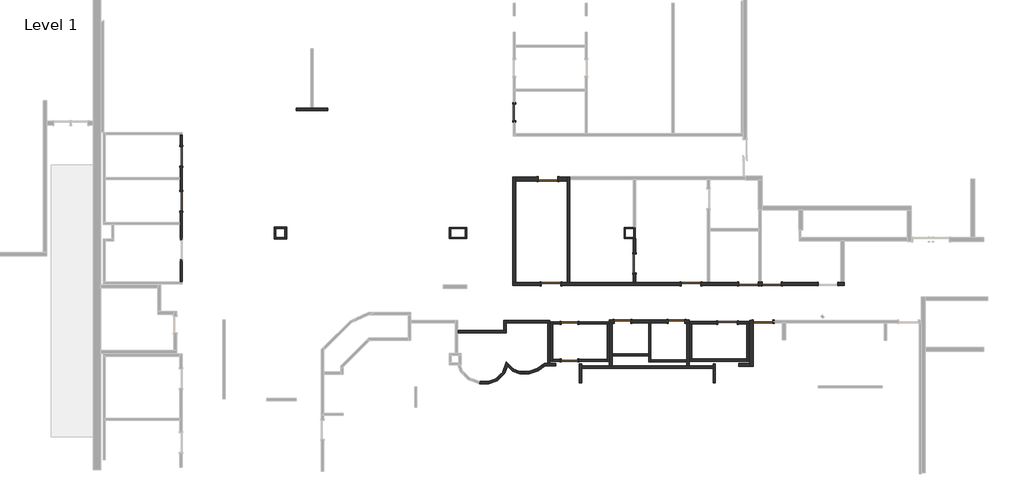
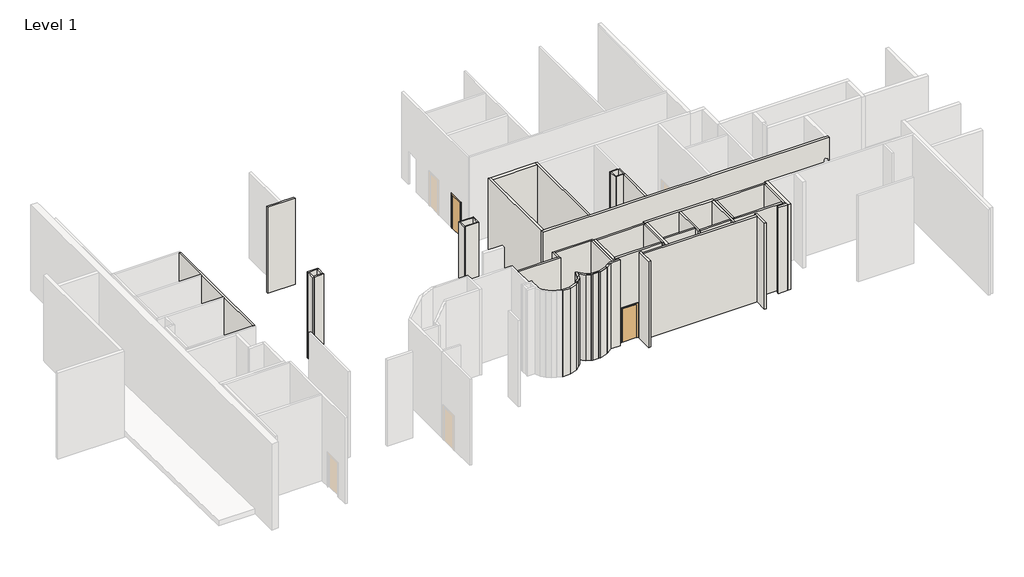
# One storey, part 5 of 10: 52 walls, 15 doors.
"""IFC4 building model written with IfcOpenShell, lengths in millimetres."""

from ifc_helpers import new_model, si_unit, frame, origin, origin_with_axes, place, context, project, spatial, polyline, outline, extrude, faceted_brep, transform, mapped, element, save
from components import door_32697e37, door_f8c0b9cb, door_b6e9fca3, door_99d96fc5, door_f5ce0651, door_5d800252, door_fe0b3fde, door_55d8558a, door_bcebd341, door_97d772aa

model = new_model("IFC4")

# Units and contexts
model_context = context("Model", 3, world=origin())
ifc_project = project(units=[si_unit("LENGTHUNIT", "METRE", prefix="MILLI")], contexts=[model_context])

# Site, building, storey
site = spatial("IfcSite", under=ifc_project)
building = spatial("IfcBuilding", under=site)
storey = spatial("IfcBuildingStorey", under=building, Name="Level 1", Elevation=0.0)

# Doors
placement = place(None, origin())
door_shape = door_32697e37(model_context)
element("IfcDoor", 1, ObjectType="Single-Flush : 34\" x 84\"", at=placement, inside=storey, context=model_context, shape_type="MappedRepresentation", body=[
    mapped(door_shape, transform((20964.3056816, 18816.1428472, 0.0), x_axis=(1.0, 0.0, 0.0), y_axis=(0.0, 1.0, 0.0), z_axis=(0.0, 0.0, 1.0))),
])
element("IfcDoor", 2, ObjectType="Single-Flush : 34\" x 84\"", at=placement, inside=storey, context=model_context, shape_type="MappedRepresentation", body=[
    mapped(door_shape, transform((20964.3056816, 20761.1478386, 0.0), x_axis=(-1.0, 0.0, 0.0), y_axis=(0.0, -1.0, 0.0), z_axis=(0.0, 0.0, 1.0))),
])
door_2_shape = door_f8c0b9cb(model_context)
element("IfcDoor", 3, ObjectType="Single-Flush : 34\" x 84\"", at=placement, inside=storey, context=model_context, shape_type="MappedRepresentation", body=[
    mapped(door_2_shape, transform((18087.213319, 31784.8822026, 0.0), x_axis=(0.0, 1.0, 0.0), y_axis=(-1.0, 0.0, 0.0), z_axis=(0.0, 0.0, 1.0))),
])
door_3_shape = door_b6e9fca3(model_context)
element("IfcDoor", 4, ObjectType="Single-Flush : 34\" x 84\"", at=placement, inside=storey, context=model_context, shape_type="MappedRepresentation", body=[
    mapped(door_3_shape, transform((26561.1724242, 20842.110354, 0.0), x_axis=(1.0, 0.0, 0.0), y_axis=(0.0, 1.0, 0.0), z_axis=(0.0, 0.0, 1.0))),
])
door_4_shape = door_99d96fc5(model_context)
element("IfcDoor", 5, ObjectType="Single-Flush : 34\" x 84\"", at=placement, inside=storey, context=model_context, shape_type="MappedRepresentation", body=[
    mapped(door_4_shape, transform((23744.9474275, 20842.110354, 0.0), x_axis=(-1.0, 0.0, 0.0), y_axis=(0.0, -1.0, 0.0), z_axis=(0.0, 0.0, 1.0))),
])
door_5_shape = door_f5ce0651(model_context)
element("IfcDoor", 6, ObjectType="Single-Flush : 36\" x 84\"", at=placement, inside=storey, context=model_context, shape_type="MappedRepresentation", body=[
    mapped(door_5_shape, transform((24373.5974216, 23877.4103474, 0.0), x_axis=(0.0, -1.0, 0.0), y_axis=(1.0, 0.0, 0.0), z_axis=(0.0, 0.0, 1.0))),
])
door_6_shape = door_5d800252(model_context)
element("IfcDoor", 7, ObjectType="Single-Flush : 36\" x 84\"", at=placement, inside=storey, context=model_context, shape_type="MappedRepresentation", body=[
    mapped(door_6_shape, transform((31544.450819, 22810.6103474, 0.0), x_axis=(-1.0, 0.0, 0.0), y_axis=(0.0, -1.0, 0.0), z_axis=(0.0, 0.0, 1.0))),
])
element("IfcDoor", 8, ObjectType="Single-Flush : 36\" x 84\"", at=placement, inside=storey, context=model_context, shape_type="MappedRepresentation", body=[
    mapped(door_6_shape, transform((27316.8224216, 22810.6103474, 0.0), x_axis=(1.0, 0.0, 0.0), y_axis=(0.0, 1.0, 0.0), z_axis=(0.0, 0.0, 1.0))),
])
element("IfcDoor", 9, ObjectType="Single-Flush : 36\" x 84\"", at=placement, inside=storey, context=model_context, shape_type="MappedRepresentation", body=[
    mapped(door_6_shape, transform((20001.6224216, 22810.6103474, 0.0), x_axis=(1.0, 0.0, 0.0), y_axis=(0.0, 1.0, 0.0), z_axis=(0.0, 0.0, 1.0))),
])
door_7_shape = door_fe0b3fde(model_context)
element("IfcDoor", 10, ObjectType="Single-Flush : 36\" x 84\"", at=placement, inside=storey, context=model_context, shape_type="MappedRepresentation", body=[
    mapped(door_7_shape, transform((30325.250819, 22810.6103474, 0.0), x_axis=(1.0, 0.0, 0.0), y_axis=(0.0, 1.0, 0.0), z_axis=(0.0, 0.0, 1.0))),
])
door_8_shape = door_55d8558a(model_context)
element("IfcDoor", 11, ObjectType="Single-Flush : 36\" x 84\"", at=placement, inside=storey, context=model_context, shape_type="MappedRepresentation", body=[
    mapped(door_8_shape, transform((31087.1349216, 20834.1732534, 0.0), x_axis=(-1.0, 0.0, 0.0), y_axis=(0.0, -1.0, 0.0), z_axis=(0.0, 0.0, 1.0))),
])
element("IfcDoor", 12, ObjectType="Single-Flush : 36\" x 84\"", at=placement, inside=storey, context=model_context, shape_type="MappedRepresentation", body=[
    mapped(door_8_shape, transform((29223.4099267, 20777.0228475, 0.0), x_axis=(1.0, 0.0, 0.0), y_axis=(0.0, 1.0, 0.0), z_axis=(0.0, 0.0, 1.0))),
])
door_9_shape = door_bcebd341(model_context)
element("IfcDoor", 13, ObjectType="Single-Flush : 36\" x 84\"", at=placement, inside=storey, context=model_context, shape_type="MappedRepresentation", body=[
    mapped(door_9_shape, transform((19849.2224216, 28299.6594625, 0.0), x_axis=(1.0, 0.0, 0.0), y_axis=(0.0, 1.0, 0.0), z_axis=(0.0, 0.0, 1.0))),
])
door_10_shape = door_97d772aa(model_context)
element("IfcDoor", 14, ObjectType="Single-Flush : 36\" x 84\"", at=placement, inside=storey, context=model_context, shape_type="MappedRepresentation", body=[
    mapped(door_10_shape, transform((660.5677298, 29494.7291991, 0.0), x_axis=(0.0, -1.0, 0.0), y_axis=(1.0, 0.0, 0.0), z_axis=(0.0, 0.0, 1.0))),
])
element("IfcDoor", 15, ObjectType="Single-Flush : 36\" x 84\"", at=placement, inside=storey, context=model_context, shape_type="MappedRepresentation", body=[
    mapped(door_10_shape, transform((660.5677298, 27140.1493749, 0.0), x_axis=(0.0, -1.0, 0.0), y_axis=(1.0, 0.0, 0.0), z_axis=(0.0, 0.0, 1.0))),
])

# Walls
element("IfcWall", 16, ObjectType="N2A/B", at=placement, inside=storey, context=model_context, shape_type="Brep", body=[
    faceted_brep([(24435.5099216, 22888.3978474, 0.0), (24435.5099216, 23369.4103474, 0.0), (24435.5099216, 23369.4103474, 2133.6), (24435.5099216, 24385.4103474, 2133.6), (24435.5099216, 24385.4103474, 0.0), (24435.5099216, 25186.5719628, 0.0), (24435.5099216, 25186.5719628, 5486.4), (24435.5099216, 22888.3978474, 5486.4), (24311.6849216, 23369.4103474, 2133.6), (24311.6849216, 23369.4103474, 0.0), (24311.6849216, 22888.3978474, 0.0), (24311.6849216, 22888.3978474, 5486.4), (24311.6849216, 25186.5719628, 5486.4), (24311.6849216, 25186.5719628, 0.0), (24311.6849216, 24385.4103474, 0.0), (24311.6849216, 24385.4103474, 2133.6), (24333.9099216, 25186.5719628, 0.0), (24333.9099216, 25186.5719628, 5486.4)], [[[0, 1, 2, 3, 4, 5, 6, 7]], [[8, 9, 10, 11, 12, 13, 14, 15]], [[10, 9, 1, 0]], [[14, 13, 16, 5, 4]], [[7, 6, 17, 12, 11]], [[0, 7, 11, 10]], [[6, 5, 16, 13, 12, 17]], [[2, 1, 9, 8]], [[3, 2, 8, 15]], [[4, 3, 15, 14]]]),
])
element("IfcWall", 17, ObjectType="N2A/B", at=placement, inside=storey, context=model_context, shape_type="Brep", body=[
    faceted_brep([(20854.1099216, 28407.6094625, 0.0), (20854.1099216, 28191.7094625, 0.0), (20854.1099216, 22888.3978474, 0.0), (20854.1099216, 22888.3978474, 5486.4), (20854.1099216, 28191.7094625, 5486.4), (20854.1099216, 28407.6094625, 5486.4), (20977.9349216, 28407.6094625, 0.0), (20977.9349216, 28407.6094625, 5486.4), (20977.9349216, 28262.085309, 5486.4), (20977.9349216, 22888.3978474, 5486.4), (20977.9349216, 22888.3978474, 0.0), (20977.9349216, 28262.085309, 0.0)], [[[0, 1, 2, 3, 4, 5]], [[6, 7, 8, 9, 10, 11]], [[2, 1, 0, 6, 11, 10]], [[5, 4, 3, 9, 8, 7]], [[0, 5, 7, 6]], [[3, 2, 10, 9]]]),
])
element("IfcWall", 18, ObjectType="N3A/B", at=placement, inside=storey, context=model_context, shape_type="Brep", body=[
    faceted_brep([(20509.6224216, 22732.8228474, 2133.6), (20509.6224216, 22732.8228474, 0.0), (26808.8224216, 22732.8228474, 0.0), (26808.8224216, 22732.8228474, 2133.6), (27824.8224216, 22732.8228474, 2133.6), (27824.8224216, 22732.8228474, 0.0), (29817.250819, 22732.8228474, 0.0), (29817.250819, 22732.8228474, 2133.6), (30833.250819, 22732.8228474, 2133.6), (30833.250819, 22732.8228474, 0.0), (31036.450819, 22732.8228474, 0.0), (31036.450819, 22732.8228474, 2133.6), (32052.450819, 22732.8228474, 2133.6), (32052.450819, 22732.8228474, 0.0), (33974.2419789, 22732.8228474, 0.0), (33974.2419789, 22732.8228474, 2133.6), (34990.2419789, 22732.8228474, 2133.6), (34990.2419789, 22732.8228474, 0.0), (35345.8419789, 22732.8228474, 0.0), (35345.8419789, 22732.8228474, 5486.4), (18009.425819, 22732.8228474, 5486.4), (18009.425819, 22732.8228474, 0.0), (19493.6224216, 22732.8228474, 0.0), (19493.6224216, 22732.8228474, 2133.6), (26808.8224216, 22888.3978474, 0.0), (24435.5099216, 22888.3978474, 0.0), (24311.6849216, 22888.3978474, 0.0), (20977.9349216, 22888.3978474, 0.0), (20854.1099216, 22888.3978474, 0.0), (20509.6224216, 22888.3978474, 0.0), (20509.6224216, 22888.3978474, 2133.6), (19493.6224216, 22888.3978474, 2133.6), (19493.6224216, 22888.3978474, 0.0), (18165.000819, 22888.3978474, 0.0), (18009.425819, 22888.3978474, 0.0), (18009.425819, 22888.3978474, 5486.4), (18165.000819, 22888.3978474, 5486.4), (20854.1099216, 22888.3978474, 5486.4), (20977.9349216, 22888.3978474, 5486.4), (24311.6849216, 22888.3978474, 5486.4), (24435.5099216, 22888.3978474, 5486.4), (28169.3099216, 22888.3978474, 5486.4), (28293.1349216, 22888.3978474, 5486.4), (30872.938319, 22888.3978474, 5486.4), (30996.763319, 22888.3978474, 5486.4), (35345.8419789, 22888.3978474, 5486.4), (35345.8419789, 22888.3978474, 0.0), (34990.2419789, 22888.3978474, 0.0), (34990.2419789, 22888.3978474, 2133.6), (33974.2419789, 22888.3978474, 2133.6), (33974.2419789, 22888.3978474, 0.0), (32052.450819, 22888.3978474, 0.0), (32052.450819, 22888.3978474, 2133.6), (31036.450819, 22888.3978474, 2133.6), (31036.450819, 22888.3978474, 0.0), (30996.763319, 22888.3978474, 0.0), (30872.938319, 22888.3978474, 0.0), (30833.250819, 22888.3978474, 0.0), (30833.250819, 22888.3978474, 2133.6), (29817.250819, 22888.3978474, 2133.6), (29817.250819, 22888.3978474, 0.0), (28293.1349216, 22888.3978474, 0.0), (28169.3099216, 22888.3978474, 0.0), (27824.8224216, 22888.3978474, 0.0), (27824.8224216, 22888.3978474, 2133.6), (26808.8224216, 22888.3978474, 2133.6)], [[[0, 1, 2, 3, 4, 5, 6, 7, 8, 9, 10, 11, 12, 13, 14, 15, 16, 17, 18, 19, 20, 21, 22, 23]], [[24, 25, 26, 27, 28, 29, 30, 31, 32, 33, 34, 35, 36, 37, 38, 39, 40, 41, 42, 43, 44, 45, 46, 47, 48, 49, 50, 51, 52, 53, 54, 55, 56, 57, 58, 59, 60, 61, 62, 63, 64, 65]], [[10, 9, 57, 56, 55, 54]], [[18, 17, 47, 46]], [[2, 1, 29, 28, 27, 26, 25, 24]], [[6, 5, 63, 62, 61, 60]], [[14, 13, 51, 50]], [[22, 21, 34, 33, 32]], [[20, 19, 45, 44, 43, 42, 41, 40, 39, 38, 37, 36, 35]], [[21, 20, 35, 34]], [[19, 18, 46, 45]], [[11, 10, 54, 53]], [[12, 11, 53, 52]], [[13, 12, 52, 51]], [[64, 63, 5, 4]], [[65, 64, 4, 3]], [[24, 65, 3, 2]], [[58, 57, 9, 8]], [[59, 58, 8, 7]], [[60, 59, 7, 6]], [[48, 47, 17, 16]], [[49, 48, 16, 15]], [[50, 49, 15, 14]], [[30, 29, 1, 0]], [[31, 30, 0, 23]], [[32, 31, 23, 22]]]),
])
element("IfcWall", 19, ObjectType="N3A/B", at=placement, inside=storey, context=model_context, shape_type="Brep", body=[
    faceted_brep([(18165.000819, 22888.3978474, 0.0), (18165.000819, 28191.7094625, 0.0), (18165.000819, 28407.6094625, 0.0), (18165.000819, 28407.6094625, 5486.4), (18165.000819, 28191.7094625, 5486.4), (18165.000819, 22888.3978474, 5486.4), (18009.425819, 22888.3978474, 0.0), (18009.425819, 22888.3978474, 5486.4), (18009.425819, 28407.6094625, 5486.4), (18009.425819, 28407.6094625, 0.0)], [[[0, 1, 2, 3, 4, 5]], [[6, 7, 8, 9]], [[2, 1, 0, 6, 9]], [[5, 4, 3, 8, 7]], [[3, 2, 9, 8]], [[0, 5, 7, 6]]]),
])
element("IfcWall", 20, ObjectType="F1A", at=placement, inside=storey, context=model_context, shape_type="Brep", body=[
    faceted_brep([(14693.0224216, 25763.3603474, 0.0), (14693.0224216, 25188.6853474, 0.0), (14693.0224216, 25188.6853474, 5486.4), (14693.0224216, 25763.3603474, 5486.4), (14750.1724216, 25763.3603474, 0.0), (14750.1724216, 25763.3603474, 5486.4), (14750.1724216, 25706.2103474, 5486.4), (14750.1724216, 25245.8353474, 5486.4), (14750.1724216, 25188.6853474, 5486.4), (14750.1724216, 25188.6853474, 0.0), (14750.1724216, 25245.8353474, 0.0), (14750.1724216, 25706.2103474, 0.0)], [[[0, 1, 2, 3]], [[4, 5, 6, 7, 8, 9, 10, 11]], [[1, 0, 4, 11, 10, 9]], [[3, 2, 8, 7, 6, 5]], [[2, 1, 9, 8]], [[0, 3, 5, 4]]]),
])
element("IfcWall", 21, ObjectType="F1A", at=placement, inside=storey, context=model_context, shape_type="Brep", body=[
    faceted_brep([(14750.1724216, 25188.6853474, 0.0), (15585.1974216, 25188.6853474, 0.0), (15585.1974216, 25188.6853474, 5486.4), (14750.1724216, 25188.6853474, 5486.4), (14750.1724216, 25245.8353474, 0.0), (14750.1724216, 25245.8353474, 5486.4), (15528.0474216, 25245.8353474, 5486.4), (15585.1974216, 25245.8353474, 5486.4), (15585.1974216, 25245.8353474, 0.0), (15528.0474216, 25245.8353474, 0.0)], [[[0, 1, 2, 3]], [[4, 5, 6, 7, 8, 9]], [[1, 0, 4, 9, 8]], [[3, 2, 7, 6, 5]], [[2, 1, 8, 7]], [[0, 3, 5, 4]]]),
])
element("IfcWall", 22, ObjectType="F1A", at=placement, inside=storey, context=model_context, shape_type="Brep", body=[
    faceted_brep([(15585.1974216, 25245.8353474, 0.0), (15585.1974216, 25763.3603474, 0.0), (15585.1974216, 25763.3603474, 5486.4), (15585.1974216, 25245.8353474, 5486.4), (15528.0474216, 25245.8353474, 0.0), (15528.0474216, 25245.8353474, 5486.4), (15528.0474216, 25706.2103474, 5486.4), (15528.0474216, 25763.3603474, 5486.4), (15528.0474216, 25763.3603474, 0.0), (15528.0474216, 25706.2103474, 0.0)], [[[0, 1, 2, 3]], [[4, 5, 6, 7, 8, 9]], [[1, 0, 4, 9, 8]], [[3, 2, 7, 6, 5]], [[2, 1, 8, 7]], [[0, 3, 5, 4]]]),
])
element("IfcWall", 23, ObjectType="F1A", at=placement, inside=storey, context=model_context, shape_type="SweptSolid", body=[
    extrude(outline(polyline([(14750.1724216, 25763.3603474), (15528.0474216, 25763.3603474), (15528.0474216, 25706.2103474), (14750.1724216, 25706.2103474), (14750.1724216, 25763.3603474)])), origin_with_axes(), (0.0, 0.0, 1.0), 5486.4),
])
element("IfcWall", 24, ObjectType="F1A", at=placement, inside=storey, context=model_context, shape_type="Brep", body=[
    faceted_brep([(24311.6849216, 25769.7103474, 0.0), (23836.4669789, 25769.7103474, 0.0), (23836.4669789, 25769.7103474, 5486.4), (24311.6849216, 25769.7103474, 5486.4), (24333.9099216, 25712.5603474, 0.0), (24333.9099216, 25712.5603474, 5486.4), (23893.6169789, 25712.5603474, 5486.4), (23836.4669789, 25712.5603474, 5486.4), (23836.4669789, 25712.5603474, 0.0), (23893.6169789, 25712.5603474, 0.0), (24311.6849216, 25741.1353474, 0.0), (24333.9099216, 25741.1353474, 0.0), (24333.9099216, 25741.1353474, 5486.4), (24311.6849216, 25741.1353474, 5486.4)], [[[0, 1, 2, 3]], [[4, 5, 6, 7, 8, 9]], [[1, 0, 10, 11, 4, 9, 8]], [[3, 2, 7, 6, 5, 12, 13]], [[2, 1, 8, 7]], [[0, 3, 13, 10]], [[13, 12, 11, 10]], [[12, 5, 4, 11]]]),
])
element("IfcWall", 25, ObjectType="F1A", at=placement, inside=storey, context=model_context, shape_type="Brep", body=[
    faceted_brep([(23836.4669789, 25712.5603474, 0.0), (23836.4669789, 25186.5719628, 0.0), (23836.4669789, 25186.5719628, 5486.4), (23836.4669789, 25712.5603474, 5486.4), (23893.6169789, 25712.5603474, 0.0), (23893.6169789, 25712.5603474, 5486.4), (23893.6169789, 25243.7219628, 5486.4), (23893.6169789, 25186.5719628, 5486.4), (23893.6169789, 25186.5719628, 0.0), (23893.6169789, 25243.7219628, 0.0)], [[[0, 1, 2, 3]], [[4, 5, 6, 7, 8, 9]], [[1, 0, 4, 9, 8]], [[3, 2, 7, 6, 5]], [[2, 1, 8, 7]], [[0, 3, 5, 4]]]),
])
element("IfcWall", 26, ObjectType="F1A", at=placement, inside=storey, context=model_context, shape_type="Brep", body=[
    faceted_brep([(23893.6169789, 25186.5719628, 0.0), (24311.6849216, 25186.5719628, 0.0), (24333.9099216, 25186.5719628, 0.0), (24333.9099216, 25186.5719628, 5486.4), (24311.6849216, 25186.5719628, 5486.4), (23893.6169789, 25186.5719628, 5486.4), (23893.6169789, 25243.7219628, 0.0), (23893.6169789, 25243.7219628, 5486.4), (24333.9099216, 25243.7219628, 5486.4), (24333.9099216, 25243.7219628, 0.0)], [[[0, 1, 2, 3, 4, 5]], [[6, 7, 8, 9]], [[2, 1, 0, 6, 9]], [[5, 4, 3, 8, 7]], [[0, 5, 7, 6]], [[3, 2, 9, 8]]]),
])
element("IfcWall", 27, ObjectType="F1B", at=placement, inside=storey, context=model_context, shape_type="Brep", body=[
    faceted_brep([(6190.372422, 25780.8228474, 0.0), (5537.9099216, 25780.8228474, 0.0), (5537.9099216, 25780.8228474, 5486.4), (6190.372422, 25780.8228474, 5486.4), (6190.372422, 25701.4478474, 0.0), (6190.372422, 25701.4478474, 5486.4), (6082.422422, 25701.4478474, 5486.4), (5617.2849216, 25701.4478474, 5486.4), (5537.9099216, 25701.4478474, 5486.4), (5537.9099216, 25701.4478474, 0.0), (5617.2849216, 25701.4478474, 0.0), (6082.422422, 25701.4478474, 0.0)], [[[0, 1, 2, 3]], [[4, 5, 6, 7, 8, 9, 10, 11]], [[1, 0, 4, 11, 10, 9]], [[3, 2, 8, 7, 6, 5]], [[2, 1, 9, 8]], [[0, 3, 5, 4]]]),
])
element("IfcWall", 28, ObjectType="F1B", at=placement, inside=storey, context=model_context, shape_type="Brep", body=[
    faceted_brep([(5537.9099216, 25701.4478474, 0.0), (5537.9099216, 25171.2228474, 0.0), (5537.9099216, 25171.2228474, 5486.4), (5537.9099216, 25701.4478474, 5486.4), (5617.2849216, 25701.4478474, 0.0), (5617.2849216, 25701.4478474, 5486.4), (5617.2849216, 25250.5978474, 5486.4), (5617.2849216, 25171.2228474, 5486.4), (5617.2849216, 25171.2228474, 0.0), (5617.2849216, 25250.5978474, 0.0)], [[[0, 1, 2, 3]], [[4, 5, 6, 7, 8, 9]], [[1, 0, 4, 9, 8]], [[3, 2, 7, 6, 5]], [[2, 1, 8, 7]], [[0, 3, 5, 4]]]),
])
element("IfcWall", 29, ObjectType="F1B", at=placement, inside=storey, context=model_context, shape_type="Brep", body=[
    faceted_brep([(5617.2849216, 25171.2228474, 0.0), (6190.372422, 25171.2228474, 0.0), (6190.372422, 25171.2228474, 5486.4), (5617.2849216, 25171.2228474, 5486.4), (5617.2849216, 25250.5978474, 0.0), (5617.2849216, 25250.5978474, 5486.4), (6082.422422, 25250.5978474, 5486.4), (6190.372422, 25250.5978474, 5486.4), (6190.372422, 25250.5978474, 0.0), (6082.422422, 25250.5978474, 0.0)], [[[0, 1, 2, 3]], [[4, 5, 6, 7, 8, 9]], [[1, 0, 4, 9, 8]], [[3, 2, 7, 6, 5]], [[2, 1, 8, 7]], [[0, 3, 5, 4]]]),
])
element("IfcWall", 30, ObjectType="F1B", at=placement, inside=storey, context=model_context, shape_type="Brep", body=[
    faceted_brep([(24333.9099216, 25741.1353474, 0.0), (24333.9099216, 25712.5603474, 0.0), (24333.9099216, 25243.7219628, 0.0), (24333.9099216, 25186.5719628, 0.0), (24333.9099216, 25172.8103474, 0.0), (24333.9099216, 25172.8103474, 5486.4), (24333.9099216, 25186.5719628, 5486.4), (24333.9099216, 25243.7219628, 5486.4), (24333.9099216, 25712.5603474, 5486.4), (24333.9099216, 25741.1353474, 5486.4), (24413.2849216, 25741.1353474, 0.0), (24413.2849216, 25741.1353474, 5486.4), (24413.2849216, 25172.8103474, 5486.4), (24413.2849216, 25172.8103474, 0.0)], [[[0, 1, 2, 3, 4, 5, 6, 7, 8, 9]], [[10, 11, 12, 13]], [[4, 3, 2, 1, 0, 10, 13]], [[5, 4, 13, 12]], [[9, 8, 7, 6, 5, 12, 11]], [[0, 9, 11, 10]]]),
])
element("IfcWall", 31, ObjectType="F1C", at=placement, inside=storey, context=model_context, shape_type="Brep", body=[
    faceted_brep([(20103.8806816, 18762.1678472, 0.0), (20103.8806816, 18870.1178472, 0.0), (20103.8806816, 20707.1728386, 0.0), (20103.8806816, 20815.1228386, 0.0), (20103.8806816, 20815.1228386, 5486.4), (20103.8806816, 20707.1728386, 5486.4), (20103.8806816, 18870.1178472, 5486.4), (20103.8806816, 18762.1678472, 5486.4), (19995.9306816, 18762.1678472, 0.0), (19995.9306816, 18762.1678472, 5486.4), (19995.9306816, 20815.1228386, 5486.4), (19995.9306816, 20815.1228386, 0.0)], [[[0, 1, 2, 3, 4, 5, 6, 7]], [[8, 9, 10, 11]], [[3, 2, 1, 0, 8, 11]], [[7, 6, 5, 4, 10, 9]], [[4, 3, 11, 10]], [[0, 7, 9, 8]]]),
])
element("IfcWall", 32, ObjectType="F1C", at=placement, inside=storey, context=model_context, shape_type="Brep", body=[
    faceted_brep([(20103.8806816, 20707.1728386, 0.0), (20532.5056816, 20707.1728386, 0.0), (20532.5056816, 20707.1728386, 2133.6), (21396.1056816, 20707.1728386, 2133.6), (21396.1056816, 20707.1728386, 0.0), (22944.3828016, 20707.1728386, 0.0), (23052.3328016, 20707.1728386, 0.0), (23052.3328016, 20707.1728386, 5486.4), (22944.3828016, 20707.1728386, 5486.4), (20103.8806816, 20707.1728386, 5486.4), (20532.5056816, 20815.1228386, 2133.6), (20532.5056816, 20815.1228386, 0.0), (20103.8806816, 20815.1228386, 0.0), (20103.8806816, 20815.1228386, 5486.4), (23052.3328016, 20815.1228386, 5486.4), (23052.3328016, 20815.1228386, 0.0), (21396.1056816, 20815.1228386, 0.0), (21396.1056816, 20815.1228386, 2133.6)], [[[0, 1, 2, 3, 4, 5, 6, 7, 8, 9]], [[10, 11, 12, 13, 14, 15, 16, 17]], [[12, 11, 1, 0]], [[16, 15, 6, 5, 4]], [[9, 8, 7, 14, 13]], [[7, 6, 15, 14]], [[0, 9, 13, 12]], [[2, 1, 11, 10]], [[3, 2, 10, 17]], [[4, 3, 17, 16]]]),
])
element("IfcWall", 33, ObjectType="F1C", at=placement, inside=storey, context=model_context, shape_type="Brep", body=[
    faceted_brep([(22944.3828016, 20707.1728386, 0.0), (22944.3828016, 18870.1178472, 0.0), (22944.3828016, 18762.1678472, 0.0), (22944.3828016, 18762.1678472, 5486.4), (22944.3828016, 18870.1178472, 5486.4), (22944.3828016, 20707.1728386, 5486.4), (23052.3328016, 20707.1728386, 0.0), (23052.3328016, 20707.1728386, 5486.4), (23052.3328016, 18762.1678472, 5486.4), (23052.3328016, 18762.1678472, 0.0)], [[[0, 1, 2, 3, 4, 5]], [[6, 7, 8, 9]], [[2, 1, 0, 6, 9]], [[5, 4, 3, 8, 7]], [[3, 2, 9, 8]], [[0, 5, 7, 6]]]),
])
element("IfcWall", 34, ObjectType="F1C", at=placement, inside=storey, context=model_context, shape_type="SweptSolid", body=[
    extrude(outline(polyline([(2133.6, 21396.1056816), (0.0, 21396.1056816), (0.0, 22944.3828016), (5486.4, 22944.3828016), (5486.4, 20103.8806816), (0.0, 20103.8806816), (0.0, 20532.5056816), (2133.6, 20532.5056816), (2133.6, 21396.1056816)])), frame((0.0, 18762.1678472, 0.0), z_axis=(0.0, 1.0, 0.0), x_axis=(0.0, 0.0, 1.0)), (0.0, 0.0, 1.0), 107.95),
])
element("IfcWall", 35, ObjectType="F1C", at=placement, inside=storey, context=model_context, shape_type="Brep", body=[
    faceted_brep([(606.5927298, 24083.2594628, 2133.6), (606.5927298, 24083.2594628, 0.0), (606.5927298, 22915.4941112, 0.0), (606.5927298, 22915.4941112, 5486.4), (606.5927298, 25908.8844628, 5486.4), (606.5927298, 26016.8344628, 5486.4), (606.5927298, 28263.464287, 5486.4), (606.5927298, 28371.414287, 5486.4), (606.5927298, 30618.0441112, 5486.4), (606.5927298, 30618.0441112, 0.0), (606.5927298, 30002.7291991, 0.0), (606.5927298, 30002.7291991, 2133.6), (606.5927298, 28986.7291991, 2133.6), (606.5927298, 28986.7291991, 0.0), (606.5927298, 28371.414287, 0.0), (606.5927298, 28263.464287, 0.0), (606.5927298, 27648.1493749, 0.0), (606.5927298, 27648.1493749, 2133.6), (606.5927298, 26632.1493749, 2133.6), (606.5927298, 26632.1493749, 0.0), (606.5927298, 26016.8344628, 0.0), (606.5927298, 25908.8844628, 0.0), (606.5927298, 25099.2594628, 0.0), (606.5927298, 25099.2594628, 2133.6), (714.5427298, 22915.4941112, 0.0), (714.5427298, 24083.2594628, 0.0), (714.5427298, 24083.2594628, 2133.6), (714.5427298, 25099.2594628, 2133.6), (714.5427298, 25099.2594628, 0.0), (714.5427298, 26632.1493749, 0.0), (714.5427298, 26632.1493749, 2133.6), (714.5427298, 27648.1493749, 2133.6), (714.5427298, 27648.1493749, 0.0), (714.5427298, 28986.7291991, 0.0), (714.5427298, 28986.7291991, 2133.6), (714.5427298, 30002.7291991, 2133.6), (714.5427298, 30002.7291991, 0.0), (714.5427298, 30618.0441112, 0.0), (714.5427298, 30618.0441112, 5486.4), (714.5427298, 22915.4941112, 5486.4)], [[[0, 1, 2, 3, 4, 5, 6, 7, 8, 9, 10, 11, 12, 13, 14, 15, 16, 17, 18, 19, 20, 21, 22, 23]], [[24, 25, 26, 27, 28, 29, 30, 31, 32, 33, 34, 35, 36, 37, 38, 39]], [[2, 1, 25, 24]], [[10, 9, 37, 36]], [[16, 15, 14, 13, 33, 32]], [[22, 21, 20, 19, 29, 28]], [[8, 7, 6, 5, 4, 3, 39, 38]], [[3, 2, 24, 39]], [[9, 8, 38, 37]], [[34, 33, 13, 12]], [[35, 34, 12, 11]], [[36, 35, 11, 10]], [[30, 29, 19, 18]], [[31, 30, 18, 17]], [[32, 31, 17, 16]], [[26, 25, 1, 0]], [[27, 26, 0, 23]], [[28, 27, 23, 22]]]),
])
element("IfcWall", 36, ObjectType="F1C", at=placement, inside=storey, context=model_context, shape_type="SweptSolid", body=[
    extrude(outline(polyline([(6082.422422, 25250.5978474), (6082.422422, 25701.4478474), (6190.372422, 25701.4478474), (6190.372422, 25250.5978474), (6082.422422, 25250.5978474)])), origin_with_axes(), (0.0, 0.0, 1.0), 5486.4),
])
element("IfcWall", 37, ObjectType="F4A", at=placement, inside=storey, context=model_context, shape_type="Brep", body=[
    faceted_brep([(15118.463178, 20242.0353386, 0.0), (17658.463178, 20242.0353386, 0.0), (17658.463178, 20242.0353386, 5486.4), (15118.463178, 20242.0353386, 5486.4), (15118.463178, 20365.8603386, 0.0), (15118.463178, 20365.8603386, 5486.4), (17534.638178, 20365.8603386, 5486.4), (17658.463178, 20365.8603386, 5486.4), (17658.463178, 20365.8603386, 0.0), (17534.638178, 20365.8603386, 0.0)], [[[0, 1, 2, 3]], [[4, 5, 6, 7, 8, 9]], [[1, 0, 4, 9, 8]], [[3, 2, 7, 6, 5]], [[2, 1, 8, 7]], [[0, 3, 5, 4]]]),
])
element("IfcWall", 38, ObjectType="F4A", at=placement, inside=storey, context=model_context, shape_type="Brep", body=[
    faceted_brep([(17658.463178, 20365.8603386, 0.0), (17658.463178, 20780.197854, 0.0), (17658.463178, 20904.022854, 0.0), (17658.463178, 20904.022854, 5486.4), (17658.463178, 20780.197854, 5486.4), (17658.463178, 20365.8603386, 5486.4), (17534.638178, 20365.8603386, 0.0), (17534.638178, 20365.8603386, 5486.4), (17534.638178, 20904.022854, 5486.4), (17534.638178, 20904.022854, 0.0)], [[[0, 1, 2, 3, 4, 5]], [[6, 7, 8, 9]], [[2, 1, 0, 6, 9]], [[5, 4, 3, 8, 7]], [[3, 2, 9, 8]], [[0, 5, 7, 6]]]),
])
element("IfcWall", 39, ObjectType="F4A", at=placement, inside=storey, context=model_context, shape_type="Brep", body=[
    faceted_brep([(17658.463178, 20780.197854, 0.0), (19820.638178, 20780.197854, 0.0), (19944.463178, 20780.197854, 0.0), (19944.463178, 20780.197854, 5486.4), (19820.638178, 20780.197854, 5486.4), (17658.463178, 20780.197854, 5486.4), (17658.463178, 20904.022854, 0.0), (17658.463178, 20904.022854, 5486.4), (19944.463178, 20904.022854, 5486.4), (19944.463178, 20904.022854, 0.0)], [[[0, 1, 2, 3, 4, 5]], [[6, 7, 8, 9]], [[2, 1, 0, 6, 9]], [[5, 4, 3, 8, 7]], [[3, 2, 9, 8]], [[0, 5, 7, 6]]]),
])
element("IfcWall", 40, ObjectType="F4A", at=placement, inside=storey, context=model_context, shape_type="SweptSolid", body=[
    extrude(outline(polyline([(19820.638178, 18638.634831), (19820.638178, 20780.197854), (19944.463178, 20780.197854), (19944.463178, 18638.634831), (19820.638178, 18638.634831)])), origin_with_axes(), (0.0, 0.0, 1.0), 5486.4),
])
element("IfcWall", 41, ObjectType="F4A", at=placement, inside=storey, context=model_context, shape_type="Brep", body=[
    faceted_brep([(19475.8770871, 18514.809831, 0.0), (19699.7562825, 18514.809831, 0.0), (20263.7227517, 18514.809831, 0.0), (20263.7227517, 18514.809831, 5486.4), (19699.7562825, 18514.809831, 5486.4), (19475.8770871, 18514.809831, 5486.4), (19662.3958891, 18638.634831, 0.0), (19662.3958891, 18638.634831, 5486.4), (19820.638178, 18638.634831, 5486.4), (19944.463178, 18638.634831, 5486.4), (20263.7227517, 18638.634831, 5486.4), (20263.7227517, 18638.634831, 0.0), (19944.463178, 18638.634831, 0.0), (19820.638178, 18638.634831, 0.0)], [[[0, 1, 2, 3, 4, 5]], [[6, 7, 8, 9, 10, 11, 12, 13]], [[2, 1, 0, 6, 13, 12, 11]], [[3, 2, 11, 10]], [[5, 4, 3, 10, 9, 8, 7]], [[0, 5, 7, 6]]]),
])
element("IfcWall", 42, ObjectType="F4A", at=placement, inside=storey, context=model_context, shape_type="Brep", body=[
    faceted_brep([(21606.7477517, 18398.3127871, 0.0), (28474.3382613, 18398.3127871, 0.0), (28474.3382613, 18398.3127871, 5486.4), (21606.7477517, 18398.3127871, 5486.4), (21606.7477517, 18522.1377871, 0.0), (21606.7477517, 18522.1377871, 5486.4), (23059.1474275, 18522.1377871, 5486.4), (23211.5474275, 18522.1377871, 5486.4), (27108.8599242, 18522.1377871, 5486.4), (27232.6849242, 18522.1377871, 5486.4), (28474.3382613, 18522.1377871, 5486.4), (28474.3382613, 18522.1377871, 0.0), (27232.6849242, 18522.1377871, 0.0), (27108.8599242, 18522.1377871, 0.0), (23211.5474275, 18522.1377871, 0.0), (23059.1474275, 18522.1377871, 0.0)], [[[0, 1, 2, 3]], [[4, 5, 6, 7, 8, 9, 10, 11, 12, 13, 14, 15]], [[1, 0, 4, 15, 14, 13, 12, 11]], [[3, 2, 10, 9, 8, 7, 6, 5]], [[0, 3, 5, 4]], [[2, 1, 11, 10]]]),
])
element("IfcWall", 43, ObjectType="F4A", at=placement, inside=storey, context=model_context, shape_type="SweptSolid", body=[
    extrude(outline(polyline([(27108.8599242, 18522.1377871), (27108.8599242, 20765.910354), (27232.6849242, 20765.910354), (27232.6849242, 18522.1377871), (27108.8599242, 18522.1377871)])), origin_with_axes(), (0.0, 0.0, 1.0), 5486.4),
])
element("IfcWall", 44, ObjectType="F4A", at=placement, inside=storey, context=model_context, shape_type="SweptSolid", body=[
    extrude(outline(polyline([(16752.2359559, 17582.4547583), (16247.8022675, 17582.4547583), (16269.6359559, 17706.2797583), (16730.4022675, 17706.2797583), (16752.2359559, 17582.4547583)])), origin_with_axes(), (0.0, 0.0, 1.0), 5486.4),
])
element("IfcWall", 45, ObjectType="F4A", at=placement, inside=storey, context=model_context, shape_type="Brep", body=[
    faceted_brep([(16752.2359559, 17582.4547583, 0.0), (17205.0198117, 17747.2546044, 0.0), (17205.0198117, 17747.2546044, 5486.4), (16752.2359559, 17582.4547583, 5486.4), (16730.4022675, 17706.2797583, 0.0), (16730.4022675, 17706.2797583, 5486.4), (17136.8733443, 17854.2231313, 5486.4), (17412.1985001, 17954.4332928, 5486.4), (17412.1985001, 17954.4332928, 0.0), (17136.8733443, 17854.2231313, 0.0)], [[[0, 1, 2, 3]], [[4, 5, 6, 7, 8, 9]], [[1, 0, 4, 9, 8]], [[3, 2, 7, 6, 5]], [[2, 1, 8, 7]], [[0, 3, 5, 4]]]),
])
element("IfcWall", 46, ObjectType="F4A", at=placement, inside=storey, context=model_context, shape_type="Brep", body=[
    faceted_brep([(17412.1985001, 17954.4332928, 0.0), (17584.5148211, 18126.7496139, 0.0), (17584.5148211, 18126.7496139, 5486.4), (17412.1985001, 17954.4332928, 5486.4), (17136.8733443, 17854.2231313, 0.0), (17136.8733443, 17854.2231313, 5486.4), (17477.5462942, 18194.8960812, 5486.4), (17684.7249826, 18402.0747697, 5486.4), (17684.7249826, 18402.0747697, 0.0), (17477.5462942, 18194.8960812, 0.0)], [[[0, 1, 2, 3]], [[4, 5, 6, 7, 8, 9]], [[1, 0, 4, 9, 8]], [[3, 2, 7, 6, 5]], [[2, 1, 8, 7]], [[0, 3, 5, 4]]]),
])
element("IfcWall", 47, ObjectType="F4A", at=placement, inside=storey, context=model_context, shape_type="Brep", body=[
    faceted_brep([(17684.7249826, 18402.0747697, 0.0), (17723.53345, 18508.7001576, 0.0), (17770.2622158, 18637.0863863, 0.0), (17770.2622158, 18637.0863863, 5486.4), (17723.53345, 18508.7001576, 5486.4), (17684.7249826, 18402.0747697, 5486.4), (17477.5462942, 18194.8960812, 0.0), (17477.5462942, 18194.8960812, 5486.4), (17673.6532067, 18733.6953953, 5486.4), (17673.6532067, 18733.6953953, 0.0)], [[[0, 1, 2, 3, 4, 5]], [[6, 7, 8, 9]], [[2, 1, 0, 6, 9]], [[5, 4, 3, 8, 7]], [[3, 2, 9, 8]], [[0, 5, 7, 6]]]),
])
element("IfcWall", 48, ObjectType="F4A", at=placement, inside=storey, context=model_context, shape_type="Brep", body=[
    faceted_brep([(17723.53345, 18508.7001576, 0.0), (18005.7698273, 18226.4637804, 0.0), (18005.7698273, 18226.4637804, 5486.4), (17723.53345, 18508.7001576, 5486.4), (17770.2622158, 18637.0863863, 0.0), (17770.2622158, 18637.0863863, 5486.4), (18073.9162947, 18333.4323074, 5486.4), (18281.0949831, 18126.2536189, 5486.4), (18281.0949831, 18126.2536189, 0.0), (18073.9162947, 18333.4323074, 0.0)], [[[0, 1, 2, 3]], [[4, 5, 6, 7, 8, 9]], [[1, 0, 4, 9, 8]], [[3, 2, 7, 6, 5]], [[2, 1, 8, 7]], [[0, 3, 5, 4]]]),
])
element("IfcWall", 49, ObjectType="F4A", at=placement, inside=storey, context=model_context, shape_type="Brep", body=[
    faceted_brep([(18281.0949831, 18126.2536189, 0.0), (18356.2200038, 18098.9103475, 0.0), (18356.2200038, 18098.9103475, 5486.4), (18281.0949831, 18126.2536189, 5486.4), (18073.9162947, 18333.4323074, 0.0), (18073.9162947, 18333.4323074, 5486.4), (18378.0536922, 18222.7353475, 5486.4), (18718.2600836, 18098.9103475, 5486.4), (18718.2600836, 18098.9103475, 0.0), (18378.0536922, 18222.7353475, 0.0)], [[[0, 1, 2, 3]], [[4, 5, 6, 7, 8, 9]], [[1, 0, 4, 9, 8]], [[3, 2, 7, 6, 5]], [[2, 1, 8, 7]], [[0, 3, 5, 4]]]),
])
element("IfcWall", 50, ObjectType="F4A", at=placement, inside=storey, context=model_context, shape_type="SweptSolid", body=[
    extrude(outline(polyline([(18860.6536922, 18098.9103475), (18718.2600836, 18098.9103475), (18378.0536922, 18222.7353475), (18838.8200038, 18222.7353475), (18860.6536922, 18098.9103475)])), origin_with_axes(), (0.0, 0.0, 1.0), 5486.4),
])
element("IfcWall", 51, ObjectType="F4A", at=placement, inside=storey, context=model_context, shape_type="SweptSolid", body=[
    extrude(outline(polyline([(19331.334487, 18270.2241467), (18860.6536922, 18098.9103475), (18838.8200038, 18222.7353475), (19275.1305265, 18381.5393907), (19331.334487, 18270.2241467)])), origin_with_axes(), (0.0, 0.0, 1.0), 5486.4),
])
element("IfcWall", 52, ObjectType="F4A", at=placement, inside=storey, context=model_context, shape_type="SweptSolid", body=[
    extrude(outline(polyline([(19699.7562825, 18514.809831), (19331.334487, 18270.2241467), (19275.1305265, 18381.5393907), (19475.8770871, 18514.809831), (19699.7562825, 18514.809831)])), origin_with_axes(), (0.0, 0.0, 1.0), 5486.4),
])
element("IfcWall", 53, ObjectType="N11B", at=placement, inside=storey, context=model_context, shape_type="Brep", body=[
    faceted_brep([(30569.6099216, 18505.310231, 0.0), (30569.6099216, 20772.2607534, 0.0), (30569.6099216, 20896.0857534, 0.0), (30569.6099216, 20896.0857534, 5486.4), (30569.6099216, 20772.2607534, 5486.4), (30569.6099216, 18505.310231, 5486.4), (30385.4599216, 18505.310231, 0.0), (30385.4599216, 18505.310231, 5486.4), (30385.4599216, 18645.010231, 5486.4), (30385.4599216, 20896.0857534, 5486.4), (30385.4599216, 20896.0857534, 0.0), (30385.4599216, 18645.010231, 0.0)], [[[0, 1, 2, 3, 4, 5]], [[6, 7, 8, 9, 10, 11]], [[2, 1, 0, 6, 11, 10]], [[5, 4, 3, 9, 8, 7]], [[0, 5, 7, 6]], [[3, 2, 10, 9]]]),
])
element("IfcWall", 54, ObjectType="N11C2", at=placement, inside=storey, context=model_context, shape_type="SweptSolid", body=[
    extrude(outline(polyline([(30385.4599216, 18505.310231), (29817.3632613, 18505.310231), (29817.3632613, 18645.010231), (30385.4599216, 18645.010231), (30385.4599216, 18505.310231)])), origin_with_axes(), (0.0, 0.0, 1.0), 5486.4),
])
element("IfcWall", 55, ObjectType="N17A", at=placement, inside=storey, context=model_context, shape_type="Brep", body=[
    faceted_brep([(21606.7477517, 17636.3127862, 0.0), (21606.7477517, 18398.3127871, 0.0), (21606.7477517, 18522.1377871, 0.0), (21606.7477517, 18637.047331, 0.0), (21606.7477517, 18637.047331, 5486.4), (21606.7477517, 18522.1377871, 5486.4), (21606.7477517, 18398.3127871, 5486.4), (21606.7477517, 17636.3127862, 5486.4), (21482.9227517, 17636.3127862, 0.0), (21482.9227517, 17636.3127862, 5486.4), (21482.9227517, 18637.047331, 5486.4), (21482.9227517, 18637.047331, 0.0)], [[[0, 1, 2, 3, 4, 5, 6, 7]], [[8, 9, 10, 11]], [[3, 2, 1, 0, 8, 11]], [[4, 3, 11, 10]], [[7, 6, 5, 4, 10, 9]], [[0, 7, 9, 8]]]),
])
element("IfcWall", 56, ObjectType="N17A", at=placement, inside=storey, context=model_context, shape_type="Brep", body=[
    faceted_brep([(28474.3382613, 18637.047331, 0.0), (28474.3382613, 18522.1377871, 0.0), (28474.3382613, 18398.3127871, 0.0), (28474.3382613, 17636.3127862, 0.0), (28474.3382613, 17636.3127862, 5486.4), (28474.3382613, 18398.3127871, 5486.4), (28474.3382613, 18522.1377871, 5486.4), (28474.3382613, 18637.047331, 5486.4), (28598.1632613, 18637.047331, 0.0), (28598.1632613, 18637.047331, 5486.4), (28598.1632613, 17636.3127862, 5486.4), (28598.1632613, 17636.3127862, 0.0)], [[[0, 1, 2, 3, 4, 5, 6, 7]], [[8, 9, 10, 11]], [[3, 2, 1, 0, 8, 11]], [[4, 3, 11, 10]], [[7, 6, 5, 4, 10, 9]], [[0, 7, 9, 8]]]),
])
element("IfcWall", 57, ObjectType="N1A", at=placement, inside=storey, context=model_context, shape_type="Brep", body=[
    faceted_brep([(29731.4099267, 20715.1103475, 2133.6), (29731.4099267, 20715.1103475, 0.0), (30228.2974267, 20715.1103475, 0.0), (30352.1224267, 20715.1103475, 0.0), (30352.1224267, 20715.1103475, 5486.4), (30228.2974267, 20715.1103475, 5486.4), (27367.6224267, 20715.1103475, 5486.4), (27243.7974267, 20715.1103475, 5486.4), (27243.7974267, 20715.1103475, 0.0), (27367.6224267, 20715.1103475, 0.0), (28715.4099267, 20715.1103475, 0.0), (28715.4099267, 20715.1103475, 2133.6), (30352.1224267, 20838.9353475, 0.0), (29731.4099267, 20838.9353475, 0.0), (29731.4099267, 20838.9353475, 2133.6), (28715.4099267, 20838.9353475, 2133.6), (28715.4099267, 20838.9353475, 0.0), (27243.7974267, 20838.9353475, 0.0), (27243.7974267, 20838.9353475, 5486.4), (30352.1224267, 20838.9353475, 5486.4)], [[[0, 1, 2, 3, 4, 5, 6, 7, 8, 9, 10, 11]], [[12, 13, 14, 15, 16, 17, 18, 19]], [[3, 2, 1, 13, 12]], [[10, 9, 8, 17, 16]], [[7, 6, 5, 4, 19, 18]], [[4, 3, 12, 19]], [[8, 7, 18, 17]], [[14, 13, 1, 0]], [[15, 14, 0, 11]], [[16, 15, 11, 10]]]),
])
element("IfcWall", 58, ObjectType="N1A", at=placement, inside=storey, context=model_context, shape_type="Brep", body=[
    faceted_brep([(30228.2974267, 20715.1103475, 0.0), (30228.2974267, 18876.7853473, 0.0), (30228.2974267, 18752.9603473, 0.0), (30228.2974267, 18752.9603473, 5486.4), (30228.2974267, 18876.7853473, 5486.4), (30228.2974267, 20715.1103475, 5486.4), (30352.1224267, 20715.1103475, 0.0), (30352.1224267, 20715.1103475, 5486.4), (30352.1224267, 18752.9603473, 5486.4), (30352.1224267, 18752.9603473, 0.0)], [[[0, 1, 2, 3, 4, 5]], [[6, 7, 8, 9]], [[2, 1, 0, 6, 9]], [[5, 4, 3, 8, 7]], [[3, 2, 9, 8]], [[0, 5, 7, 6]]]),
])
element("IfcWall", 59, ObjectType="N1A", at=placement, inside=storey, context=model_context, shape_type="Brep", body=[
    faceted_brep([(30228.2974267, 18876.7853473, 0.0), (27367.6224267, 18876.7853473, 0.0), (27243.7974267, 18876.7853473, 0.0), (27243.7974267, 18876.7853473, 5486.4), (27367.6224267, 18876.7853473, 5486.4), (30228.2974267, 18876.7853473, 5486.4), (30228.2974267, 18752.9603473, 0.0), (30228.2974267, 18752.9603473, 5486.4), (27243.7974267, 18752.9603473, 5486.4), (27243.7974267, 18752.9603473, 0.0)], [[[0, 1, 2, 3, 4, 5]], [[6, 7, 8, 9]], [[2, 1, 0, 6, 9]], [[5, 4, 3, 8, 7]], [[3, 2, 9, 8]], [[0, 5, 7, 6]]]),
])
element("IfcWall", 60, ObjectType="N1A", at=placement, inside=storey, context=model_context, shape_type="SweptSolid", body=[
    extrude(outline(polyline([(27367.6224267, 20715.1103475), (27367.6224267, 18876.7853473), (27243.7974267, 18876.7853473), (27243.7974267, 20715.1103475), (27367.6224267, 20715.1103475)])), origin_with_axes(), (0.0, 0.0, 1.0), 5486.4),
])
element("IfcWall", 61, ObjectType="N1A", at=placement, inside=storey, context=model_context, shape_type="Brep", body=[
    faceted_brep([(8340.4287217, 32013.9430348, 0.0), (7576.8412217, 32013.9430348, 0.0), (7453.0162217, 32013.9430348, 0.0), (6689.4287217, 32013.9430348, 0.0), (6689.4287217, 32013.9430348, 5486.4), (7453.0162217, 32013.9430348, 5486.4), (7576.8412217, 32013.9430348, 5486.4), (8340.4287217, 32013.9430348, 5486.4), (8340.4287217, 31890.1180348, 0.0), (8340.4287217, 31890.1180348, 5486.4), (6689.4287217, 31890.1180348, 5486.4), (6689.4287217, 31890.1180348, 0.0)], [[[0, 1, 2, 3, 4, 5, 6, 7]], [[8, 9, 10, 11]], [[3, 2, 1, 0, 8, 11]], [[4, 3, 11, 10]], [[7, 6, 5, 4, 10, 9]], [[0, 7, 9, 8]]]),
])
element("IfcWall", 62, ObjectType="N3C", at=placement, inside=storey, context=model_context, shape_type="SweptSolid", body=[
    extrude(outline(polyline([(2133.6, 20357.2224216), (0.0, 20357.2224216), (0.0, 20854.1099216), (5486.4, 20854.1099216), (5486.4, 18165.000819), (0.0, 18165.000819), (0.0, 19341.2224216), (2133.6, 19341.2224216), (2133.6, 20357.2224216)])), frame((0.0, 28191.7094625, 0.0), z_axis=(0.0, 1.0, 0.0), x_axis=(0.0, 0.0, 1.0)), (0.0, 0.0, 1.0), 215.9),
])
element("IfcWall", 63, ObjectType="N5A", at=placement, inside=storey, context=model_context, shape_type="Brep", body=[
    faceted_brep([(25121.3099216, 20761.1478386, 0.0), (25121.3099216, 19138.5323473, 0.0), (25121.3099216, 19036.9323473, 0.0), (25121.3099216, 18739.9428472, 0.0), (25121.3099216, 18739.9428472, 5486.4), (25121.3099216, 19036.9323473, 5486.4), (25121.3099216, 19138.5323473, 5486.4), (25121.3099216, 20761.1478386, 5486.4), (25222.9099216, 20761.1478386, 0.0), (25222.9099216, 20761.1478386, 5486.4), (25222.9099216, 18841.5428472, 5486.4), (25222.9099216, 18739.9428472, 5486.4), (25222.9099216, 18739.9428472, 0.0), (25222.9099216, 18841.5428472, 0.0)], [[[0, 1, 2, 3, 4, 5, 6, 7]], [[8, 9, 10, 11, 12, 13]], [[3, 2, 1, 0, 8, 13, 12]], [[7, 6, 5, 4, 11, 10, 9]], [[0, 7, 9, 8]], [[4, 3, 12, 11]]]),
])
element("IfcWall", 64, ObjectType="N5A", at=placement, inside=storey, context=model_context, shape_type="SweptSolid", body=[
    extrude(outline(polyline([(27086.6349216, 18739.9428472), (25222.9099216, 18739.9428472), (25222.9099216, 18841.5428472), (27086.6349216, 18841.5428472), (27086.6349216, 18739.9428472)])), origin_with_axes(), (0.0, 0.0, 1.0), 5486.4),
])
element("IfcWall", 65, ObjectType="N5A", at=placement, inside=storey, context=model_context, shape_type="SweptSolid", body=[
    extrude(outline(polyline([(23211.5474275, 19138.5323473), (25121.3099216, 19138.5323473), (25121.3099216, 19036.9323473), (23211.5474275, 19036.9323473), (23211.5474275, 19138.5323473)])), origin_with_axes(), (0.0, 0.0, 1.0), 5486.4),
])
element("IfcWall", 66, ObjectType="N5B", at=placement, inside=storey, context=model_context, shape_type="Brep", body=[
    faceted_brep([(23211.5474275, 18522.1377871, 0.0), (23211.5474275, 19036.9323473, 0.0), (23211.5474275, 19138.5323473, 0.0), (23211.5474275, 20765.910354, 0.0), (23211.5474275, 20765.910354, 5486.4), (23211.5474275, 19138.5323473, 5486.4), (23211.5474275, 19036.9323473, 5486.4), (23211.5474275, 18522.1377871, 5486.4), (23059.1474275, 18522.1377871, 0.0), (23059.1474275, 18522.1377871, 5486.4), (23059.1474275, 20765.910354, 5486.4), (23059.1474275, 20765.910354, 0.0)], [[[0, 1, 2, 3, 4, 5, 6, 7]], [[8, 9, 10, 11]], [[3, 2, 1, 0, 8, 11]], [[7, 6, 5, 4, 10, 9]], [[4, 3, 11, 10]], [[0, 7, 9, 8]]]),
])
element("IfcWall", 67, ObjectType="N5B", at=placement, inside=storey, context=model_context, shape_type="Brep", body=[
    faceted_brep([(23059.1474275, 20765.910354, 0.0), (23211.5474275, 20765.910354, 0.0), (23313.1474275, 20765.910354, 0.0), (23313.1474275, 20765.910354, 2133.6), (24176.7474275, 20765.910354, 2133.6), (24176.7474275, 20765.910354, 0.0), (26129.3724242, 20765.910354, 0.0), (26129.3724242, 20765.910354, 2133.6), (26992.9724242, 20765.910354, 2133.6), (26992.9724242, 20765.910354, 0.0), (27108.8599242, 20765.910354, 0.0), (27232.6849242, 20765.910354, 0.0), (27232.6849242, 20765.910354, 5486.4), (27108.8599242, 20765.910354, 5486.4), (23211.5474275, 20765.910354, 5486.4), (23059.1474275, 20765.910354, 5486.4), (23313.1474275, 20918.310354, 2133.6), (23313.1474275, 20918.310354, 0.0), (23059.1474275, 20918.310354, 0.0), (23059.1474275, 20918.310354, 5486.4), (27232.6849242, 20918.310354, 5486.4), (27232.6849242, 20918.310354, 0.0), (26992.9724242, 20918.310354, 0.0), (26992.9724242, 20918.310354, 2133.6), (26129.3724242, 20918.310354, 2133.6), (26129.3724242, 20918.310354, 0.0), (24176.7474275, 20918.310354, 0.0), (24176.7474275, 20918.310354, 2133.6)], [[[0, 1, 2, 3, 4, 5, 6, 7, 8, 9, 10, 11, 12, 13, 14, 15]], [[16, 17, 18, 19, 20, 21, 22, 23, 24, 25, 26, 27]], [[11, 10, 9, 22, 21]], [[18, 17, 2, 1, 0]], [[26, 25, 6, 5]], [[15, 14, 13, 12, 20, 19]], [[0, 15, 19, 18]], [[12, 11, 21, 20]], [[23, 22, 9, 8]], [[24, 23, 8, 7]], [[25, 24, 7, 6]], [[3, 2, 17, 16]], [[4, 3, 16, 27]], [[5, 4, 27, 26]]]),
])

save(model, "model.ifc")
